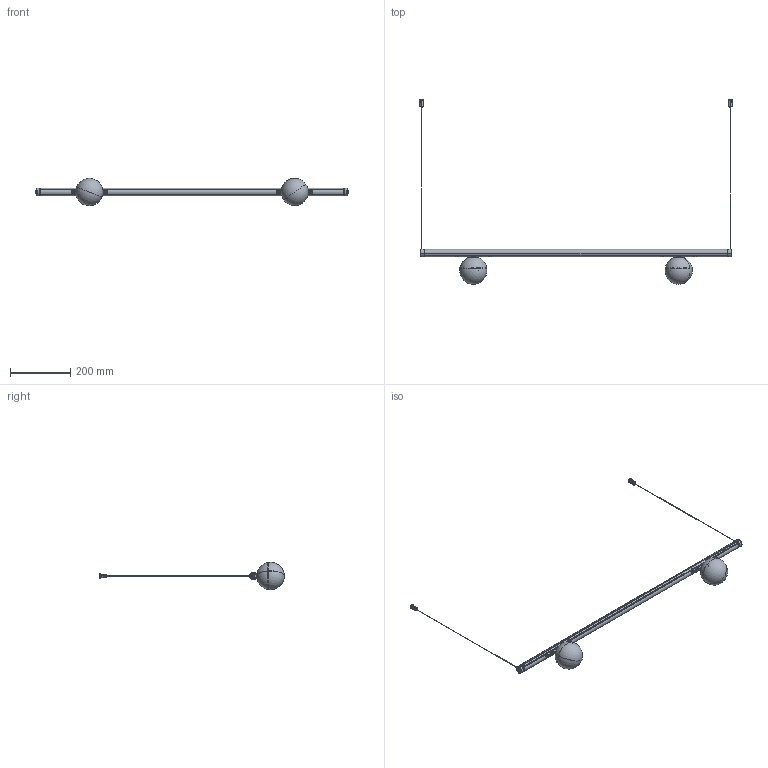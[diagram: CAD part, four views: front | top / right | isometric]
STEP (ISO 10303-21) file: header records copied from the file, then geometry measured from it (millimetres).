
FILE_DESCRIPTION (( 'STEP AP214' ), '1' );
FILE_NAME ('BALO 10.STEP', '2024-05-31T08:47:20', ( '' ), ( '' ), 'SwSTEP 2.0', 'SolidWorks 2024', '' );
FILE_SCHEMA (( 'AUTOMOTIVE_DESIGN' ));
Length unit declared in the file: millimetre
Products named in the file (1): BALO 10
Bounding box: 1036.49 x 610.98 x 89.82 mm (x, y, z)
Volume: 322979.1 mm3; surface area: 361649.8 mm2
Topology: 9 solids, 21 shells, 2387 faces, 6373 edges, 3980 vertices
Faces by surface type: plane 919, cylinder 895, bspline 226, torus 184, sphere 96, cone 67
Entity records: 97580 total; most frequent: CARTESIAN_POINT 40004, ORIENTED_EDGE 12566, DIRECTION 11637, EDGE_CURVE 6283, AXIS2_PLACEMENT_3D 4219, VERTEX_POINT 3950, VECTOR 3199, LINE 3199
